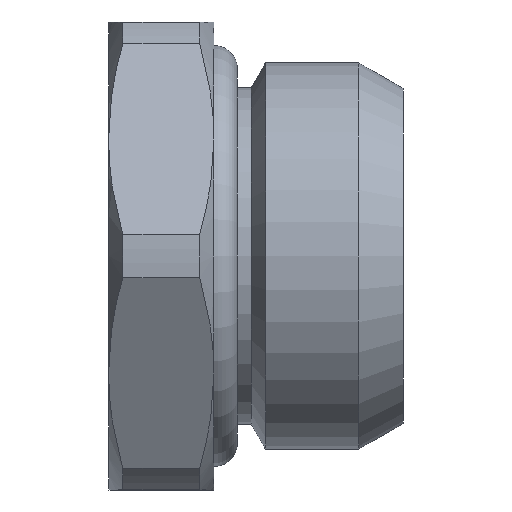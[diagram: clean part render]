
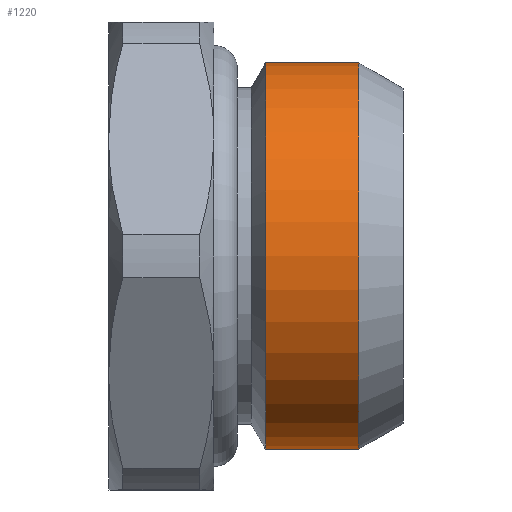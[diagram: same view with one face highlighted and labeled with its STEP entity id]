
A CAD part, left-side view. The second image highlights one B-rep face of the part: STEP entity #1220.
In plain terms, the highlighted cylindrical face has radius 8.25 mm (diameter 16.5 mm), a partial arc.
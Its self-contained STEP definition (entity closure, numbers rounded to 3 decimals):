
#35 = AXIS2_PLACEMENT_3D ( 'NONE', #1661, #1662, #1671 ) ;
#113 = EDGE_CURVE ( 'NONE', #615, #580, #454, .T. ) ;
#135 = EDGE_CURVE ( 'NONE', #580, #752, #705, .T. ) ;
#203 = AXIS2_PLACEMENT_3D ( 'NONE', #1575, #1574, #1576 ) ;
#226 = EDGE_CURVE ( 'NONE', #615, #674, #461, .T. ) ;
#328 = EDGE_CURVE ( 'NONE', #674, #752, #557, .T. ) ;
#342 = AXIS2_PLACEMENT_3D ( 'NONE', #1427, #1426, #1428 ) ;
#454 = LINE ( 'NONE', #1370, #882 ) ;
#461 = CIRCLE ( 'NONE', #203, 8.25 ) ;
#557 = LINE ( 'NONE', #1626, #784 ) ;
#580 = VERTEX_POINT ( 'NONE', #1743 ) ;
#615 = VERTEX_POINT ( 'NONE', #1748 ) ;
#674 = VERTEX_POINT ( 'NONE', #1727 ) ;
#705 = CIRCLE ( 'NONE', #342, 8.25 ) ;
#717 = CYLINDRICAL_SURFACE ( 'NONE', #35, 8.25 ) ;
#737 = FACE_OUTER_BOUND ( 'NONE', #857, .T. ) ;
#752 = VERTEX_POINT ( 'NONE', #1716 ) ;
#784 = VECTOR ( 'NONE', #1628, 1000. ) ;
#857 = EDGE_LOOP ( 'NONE', ( #979, #942, #1100, #1085 ) ) ;
#882 = VECTOR ( 'NONE', #1356, 1000. ) ;
#942 = ORIENTED_EDGE ( 'NONE', *, *, #226, .T. ) ;
#979 = ORIENTED_EDGE ( 'NONE', *, *, #113, .F. ) ;
#1085 = ORIENTED_EDGE ( 'NONE', *, *, #135, .F. ) ;
#1100 = ORIENTED_EDGE ( 'NONE', *, *, #328, .T. ) ;
#1220 = ADVANCED_FACE ( 'NONE', ( #737 ), #717, .T. ) ;
#1356 = DIRECTION ( 'NONE',  ( 0., -1., 0. ) ) ;
#1370 = CARTESIAN_POINT ( 'NONE',  ( 0., 0., 8.25 ) ) ;
#1426 = DIRECTION ( 'NONE',  ( 0., -1., 0. ) ) ;
#1427 = CARTESIAN_POINT ( 'NONE',  ( 0., 1.905, 0. ) ) ;
#1428 = DIRECTION ( 'NONE',  ( 0., 0., -1. ) ) ;
#1574 = DIRECTION ( 'NONE',  ( 0., -1., 0. ) ) ;
#1575 = CARTESIAN_POINT ( 'NONE',  ( 0., 5.894, 0. ) ) ;
#1576 = DIRECTION ( 'NONE',  ( 0., 0., -1. ) ) ;
#1626 = CARTESIAN_POINT ( 'NONE',  ( 0., 0., -8.25 ) ) ;
#1628 = DIRECTION ( 'NONE',  ( 0., -1., 0. ) ) ;
#1661 = CARTESIAN_POINT ( 'NONE',  ( 0., 0., 0. ) ) ;
#1662 = DIRECTION ( 'NONE',  ( 0., -1., 0. ) ) ;
#1671 = DIRECTION ( 'NONE',  ( 0., 0., -1. ) ) ;
#1716 = CARTESIAN_POINT ( 'NONE',  ( 0., 1.905, -8.25 ) ) ;
#1727 = CARTESIAN_POINT ( 'NONE',  ( 0., 5.894, -8.25 ) ) ;
#1743 = CARTESIAN_POINT ( 'NONE',  ( 0., 1.905, 8.25 ) ) ;
#1748 = CARTESIAN_POINT ( 'NONE',  ( 0., 5.894, 8.25 ) ) ;
